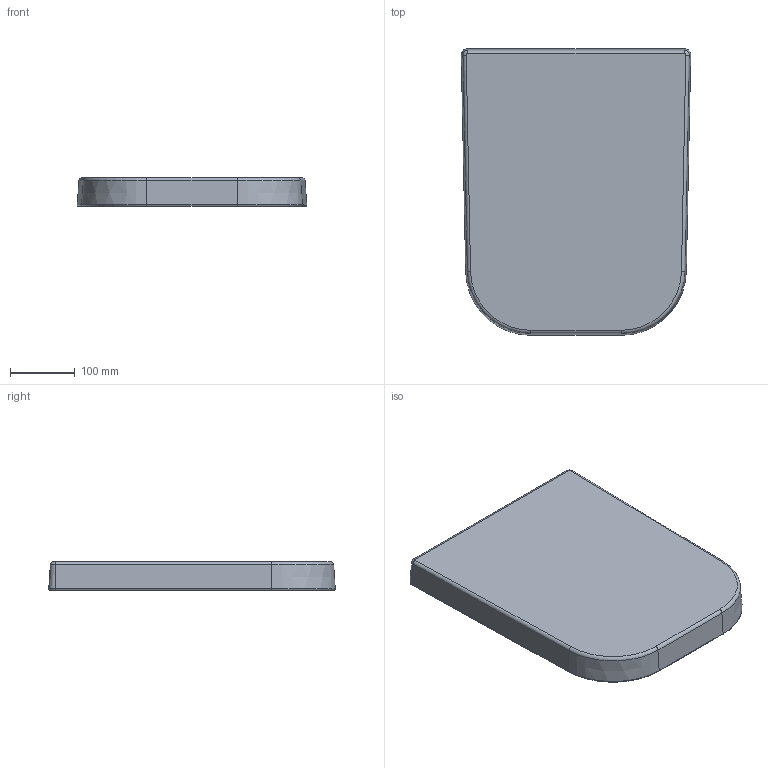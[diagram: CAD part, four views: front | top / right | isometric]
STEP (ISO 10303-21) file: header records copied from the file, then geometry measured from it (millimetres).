
FILE_DESCRIPTION(/* description */ (''),/* implementation_level */ '2;1');
FILE_NAME(/* name */ 'C:\Planerdaten\Export PLA\501.555.01.1\stp\501557.stp',/* time_stamp */ '2020-12-08T11:32:18+01:00',/* author */ ('JANAN'),/* organization */ (''),/* preprocessor_version */ 'ST-DEVELOPER v16.13',/* originating_system */ 'Autodesk Inventor 2018',/* authorisation */ '');
FILE_SCHEMA (('AUTOMOTIVE_DESIGN { 1 0 10303 214 3 1 1 }'));
Length unit declared in the file: millimetre
Products named in the file (1): tmpA39.tmp
Bounding box: 355.29 x 443.7 x 44 mm (x, y, z)
Volume: 6484727 mm3; surface area: 356691 mm2
Topology: 1 solids, 1 shells, 30 faces, 62 edges, 36 vertices
Faces by surface type: cylinder 10, plane 8, torus 6, cone 4, bspline 2
Full cylindrical faces by diameter (mm): 6.3 x2
Entity records: 873 total; most frequent: CARTESIAN_POINT 155, DIRECTION 154, ORIENTED_EDGE 120, AXIS2_PLACEMENT_3D 65, EDGE_CURVE 60, CIRCLE 36, VERTEX_POINT 36, EDGE_LOOP 34
